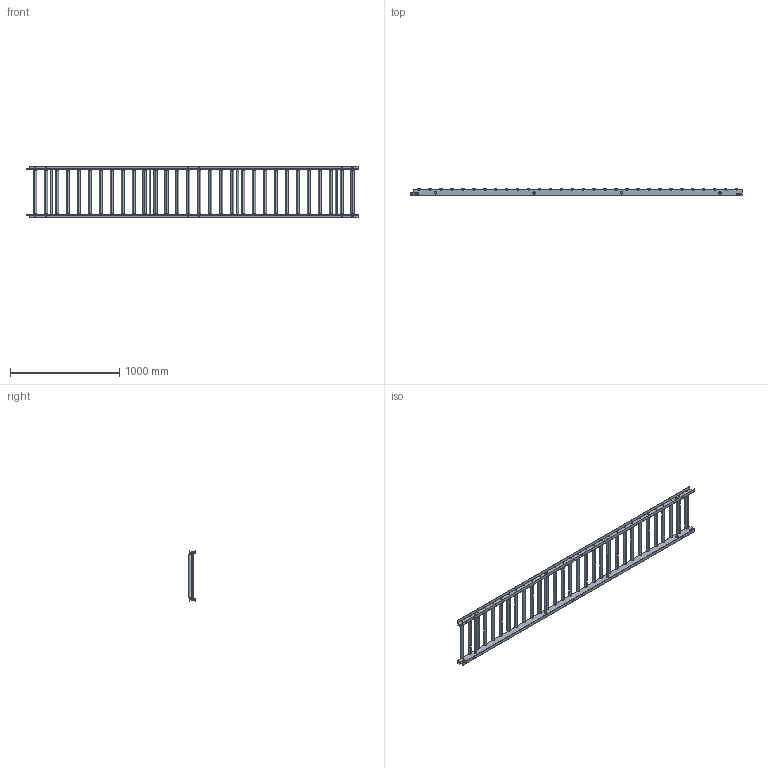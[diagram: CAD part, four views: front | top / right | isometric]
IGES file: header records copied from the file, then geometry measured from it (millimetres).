
Start section: SolidWorks IGES file using analytic representation for surfaces
Global section: file name: C:\Users\0656\Desktop\変換ツール\iges変換\RA-2816.igs; native system: SolidWorks 2023; preprocessor: SolidWorks 2023; author: 0656; date: 240226.152540; units: millimetre
Bounding box: 3033 x 66.28 x 475 mm (x, y, z)
Surface area: 3570819.4 mm2 (no closed solid volume)
Topology: 0 solids, 0 shells, 1300 faces, 25916 edges, 25916 vertices
Faces by surface type: revolution 682, bspline 618
